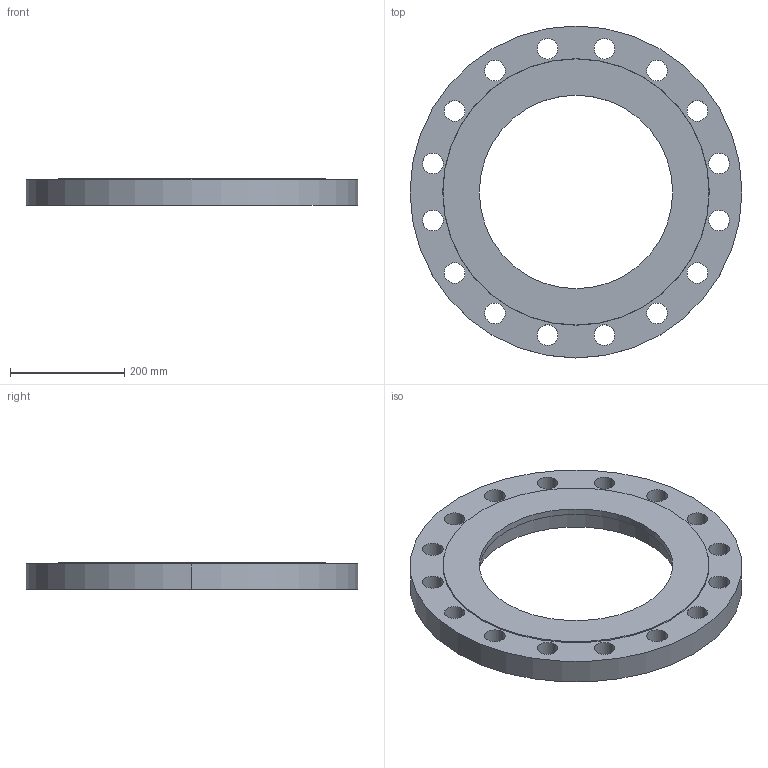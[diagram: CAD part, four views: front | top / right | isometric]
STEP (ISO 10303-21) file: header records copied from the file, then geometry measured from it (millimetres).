
FILE_DESCRIPTION (( 'STEP AP214' ), '1' );
FILE_NAME ('PN40 DN350 Type 05 - Socket (Type B) - Not in Standard.STEP', '2019-01-05T21:57:09', ( '' ), ( '' ), 'SwSTEP 2.0', 'SolidWorks 2019', '' );
FILE_SCHEMA (( 'AUTOMOTIVE_DESIGN' ));
Length unit declared in the file: millimetre
Products named in the file (1): PN40 DN350 Type 05 - Socket (Type B) - Not in Standard
Bounding box: 580 x 580 x 46 mm (x, y, z)
Volume: 6714940.4 mm3; surface area: 529813 mm2
Topology: 1 solids, 1 shells, 44 faces, 120 edges, 80 vertices
Faces by surface type: cylinder 38, plane 4, cone 2
Entity records: 1546 total; most frequent: DIRECTION 290, CARTESIAN_POINT 245, ORIENTED_EDGE 240, AXIS2_PLACEMENT_3D 125, EDGE_CURVE 120, CIRCLE 80, VERTEX_POINT 80, EDGE_LOOP 80
